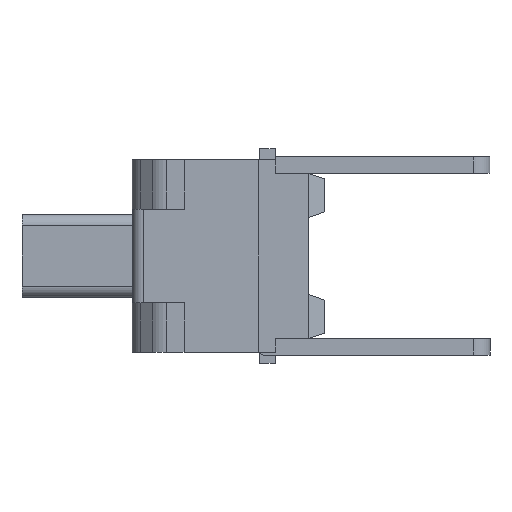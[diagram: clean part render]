
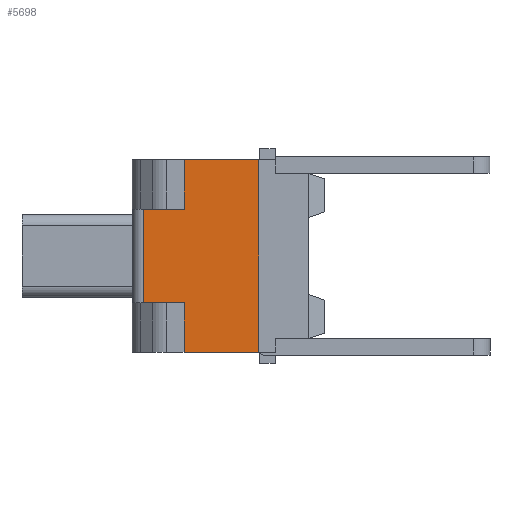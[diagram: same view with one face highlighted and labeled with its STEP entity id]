
A CAD part, left-side view. The second image highlights one B-rep face of the part: STEP entity #5698.
In plain terms, the highlighted planar face has unit normal (-1, 0, 0).
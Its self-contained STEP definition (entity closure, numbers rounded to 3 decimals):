
#127 = ORIENTED_EDGE ( 'NONE', *, *, #3591, .F. ) ;
#147 = EDGE_CURVE ( 'NONE', #3182, #5785, #4304, .T. ) ;
#160 = EDGE_CURVE ( 'NONE', #5118, #754, #2104, .T. ) ;
#249 = ORIENTED_EDGE ( 'NONE', *, *, #147, .F. ) ;
#275 = EDGE_CURVE ( 'NONE', #2146, #2358, #2907, .T. ) ;
#301 = VECTOR ( 'NONE', #3811, 1000. ) ;
#372 = LINE ( 'NONE', #3530, #3809 ) ;
#501 = VECTOR ( 'NONE', #5593, 1000. ) ;
#600 = CARTESIAN_POINT ( 'NONE',  ( -6.3, 3.3, -0.85 ) ) ;
#648 = CARTESIAN_POINT ( 'NONE',  ( -6.3, 2.558, 1.75 ) ) ;
#657 = DIRECTION ( 'NONE',  ( 0., -1., 0. ) ) ;
#667 = CARTESIAN_POINT ( 'NONE',  ( -6.3, 2.558, -0.85 ) ) ;
#754 = VERTEX_POINT ( 'NONE', #5276 ) ;
#760 = ORIENTED_EDGE ( 'NONE', *, *, #275, .F. ) ;
#923 = CARTESIAN_POINT ( 'NONE',  ( -6.3, 3.257, 0.85 ) ) ;
#924 = DIRECTION ( 'NONE',  ( 0., 0., 1. ) ) ;
#1072 = CARTESIAN_POINT ( 'NONE',  ( -6.3, 2.558, 0.85 ) ) ;
#1113 = EDGE_LOOP ( 'NONE', ( #1156, #2871, #1499, #4323, #4577, #760, #3220, #5083, #127, #249 ) ) ;
#1156 = ORIENTED_EDGE ( 'NONE', *, *, #1945, .F. ) ;
#1217 = CARTESIAN_POINT ( 'NONE',  ( -6.3, 2.558, 1.75 ) ) ;
#1265 = LINE ( 'NONE', #1582, #3651 ) ;
#1329 = LINE ( 'NONE', #3644, #3580 ) ;
#1448 = AXIS2_PLACEMENT_3D ( 'NONE', #1217, #4357, #1657 ) ;
#1499 = ORIENTED_EDGE ( 'NONE', *, *, #3931, .F. ) ;
#1582 = CARTESIAN_POINT ( 'NONE',  ( -6.3, 2.558, 1.75 ) ) ;
#1657 = DIRECTION ( 'NONE',  ( 0., 1., 0. ) ) ;
#1869 = CARTESIAN_POINT ( 'NONE',  ( -6.3, 2.558, -0.85 ) ) ;
#1933 = LINE ( 'NONE', #2564, #5429 ) ;
#1945 = EDGE_CURVE ( 'NONE', #2417, #3182, #3089, .T. ) ;
#2005 = DIRECTION ( 'NONE',  ( 0., 1., 0. ) ) ;
#2104 = LINE ( 'NONE', #667, #5590 ) ;
#2146 = VERTEX_POINT ( 'NONE', #4273 ) ;
#2156 = CARTESIAN_POINT ( 'NONE',  ( -6.3, 2.558, 0.85 ) ) ;
#2358 = VERTEX_POINT ( 'NONE', #2554 ) ;
#2363 = VERTEX_POINT ( 'NONE', #4842 ) ;
#2373 = DIRECTION ( 'NONE',  ( 0., 0., 1. ) ) ;
#2417 = VERTEX_POINT ( 'NONE', #5340 ) ;
#2469 = LINE ( 'NONE', #1869, #4882 ) ;
#2554 = CARTESIAN_POINT ( 'NONE',  ( -6.3, 2.558, -1.75 ) ) ;
#2564 = CARTESIAN_POINT ( 'NONE',  ( -6.3, 1.2, 1.75 ) ) ;
#2693 = EDGE_CURVE ( 'NONE', #2757, #2417, #4699, .T. ) ;
#2757 = VERTEX_POINT ( 'NONE', #600 ) ;
#2871 = ORIENTED_EDGE ( 'NONE', *, *, #2693, .F. ) ;
#2907 = LINE ( 'NONE', #5679, #501 ) ;
#3089 = LINE ( 'NONE', #4538, #5372 ) ;
#3182 = VERTEX_POINT ( 'NONE', #923 ) ;
#3220 = ORIENTED_EDGE ( 'NONE', *, *, #5727, .T. ) ;
#3530 = CARTESIAN_POINT ( 'NONE',  ( -6.3, 2.558, 1.75 ) ) ;
#3580 = VECTOR ( 'NONE', #924, 1000. ) ;
#3591 = EDGE_CURVE ( 'NONE', #5785, #4759, #372, .T. ) ;
#3595 = CARTESIAN_POINT ( 'NONE',  ( -6.3, 2.558, -0.85 ) ) ;
#3644 = CARTESIAN_POINT ( 'NONE',  ( -6.3, 2.558, 1.75 ) ) ;
#3651 = VECTOR ( 'NONE', #657, 1000. ) ;
#3722 = FACE_OUTER_BOUND ( 'NONE', #1113, .T. ) ;
#3809 = VECTOR ( 'NONE', #3982, 1000. ) ;
#3811 = DIRECTION ( 'NONE',  ( 0., -1., 0. ) ) ;
#3931 = EDGE_CURVE ( 'NONE', #754, #2757, #2469, .T. ) ;
#3982 = DIRECTION ( 'NONE',  ( 0., 0., 1. ) ) ;
#4273 = CARTESIAN_POINT ( 'NONE',  ( -6.3, 1.2, -1.75 ) ) ;
#4304 = LINE ( 'NONE', #1072, #301 ) ;
#4323 = ORIENTED_EDGE ( 'NONE', *, *, #160, .F. ) ;
#4357 = DIRECTION ( 'NONE',  ( 1., 0., 0. ) ) ;
#4538 = CARTESIAN_POINT ( 'NONE',  ( -6.3, 2.558, 0.85 ) ) ;
#4577 = ORIENTED_EDGE ( 'NONE', *, *, #5355, .F. ) ;
#4638 = CARTESIAN_POINT ( 'NONE',  ( -6.3, 3.3, 1.75 ) ) ;
#4699 = LINE ( 'NONE', #4638, #5762 ) ;
#4759 = VERTEX_POINT ( 'NONE', #648 ) ;
#4842 = CARTESIAN_POINT ( 'NONE',  ( -6.3, 1.2, 1.75 ) ) ;
#4882 = VECTOR ( 'NONE', #5068, 1000. ) ;
#5068 = DIRECTION ( 'NONE',  ( 0., 1., 0. ) ) ;
#5083 = ORIENTED_EDGE ( 'NONE', *, *, #5607, .F. ) ;
#5118 = VERTEX_POINT ( 'NONE', #3595 ) ;
#5273 = PLANE ( 'NONE',  #1448 ) ;
#5276 = CARTESIAN_POINT ( 'NONE',  ( -6.3, 3.257, -0.85 ) ) ;
#5293 = DIRECTION ( 'NONE',  ( 0., 0., 1. ) ) ;
#5340 = CARTESIAN_POINT ( 'NONE',  ( -6.3, 3.3, 0.85 ) ) ;
#5355 = EDGE_CURVE ( 'NONE', #2358, #5118, #1329, .T. ) ;
#5372 = VECTOR ( 'NONE', #5444, 1000. ) ;
#5429 = VECTOR ( 'NONE', #5293, 1000. ) ;
#5444 = DIRECTION ( 'NONE',  ( 0., -1., 0. ) ) ;
#5590 = VECTOR ( 'NONE', #2005, 1000. ) ;
#5593 = DIRECTION ( 'NONE',  ( 0., 1., 0. ) ) ;
#5607 = EDGE_CURVE ( 'NONE', #4759, #2363, #1265, .T. ) ;
#5679 = CARTESIAN_POINT ( 'NONE',  ( -6.3, 2.558, -1.75 ) ) ;
#5698 = ADVANCED_FACE ( 'NONE', ( #3722 ), #5273, .F. ) ;
#5727 = EDGE_CURVE ( 'NONE', #2146, #2363, #1933, .T. ) ;
#5762 = VECTOR ( 'NONE', #2373, 1000. ) ;
#5785 = VERTEX_POINT ( 'NONE', #2156 ) ;
